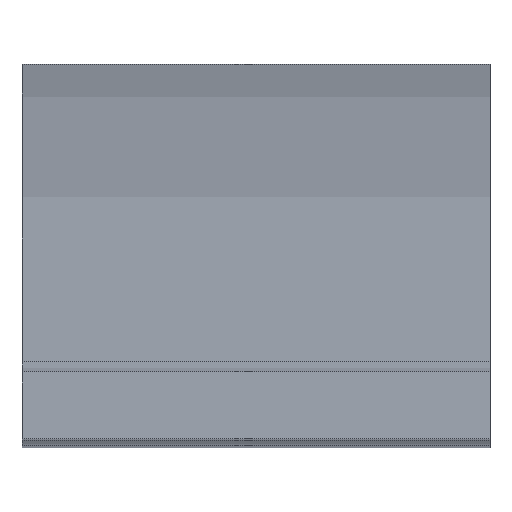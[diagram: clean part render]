
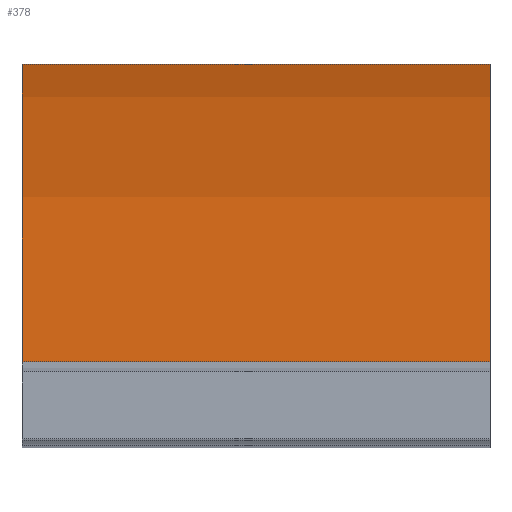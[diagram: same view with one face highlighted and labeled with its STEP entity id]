
A CAD part, top view. The second image highlights one B-rep face of the part: STEP entity #378.
In plain terms, the highlighted cylindrical face has radius 9.506 mm (diameter 19.012 mm), a partial arc.
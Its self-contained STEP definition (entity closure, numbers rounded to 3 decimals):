
#15=CARTESIAN_POINT('',(-0.533,-8.642,-5.969));
#16=DIRECTION('',(1.,0.,0.));
#17=DIRECTION('',(0.,0.928,-0.373));
#18=AXIS2_PLACEMENT_3D('',#15,#16,#17);
#88=DIRECTION('',(1.,0.,0.));
#89=VECTOR('',#88,1.067);
#90=CARTESIAN_POINT('',(-0.533,0.179,-2.428));
#91=LINE('',#90,#89);
#92=DIRECTION('',(1.,0.,0.));
#93=VECTOR('',#92,1.067);
#94=CARTESIAN_POINT('',(-0.533,0.179,-9.51));
#95=LINE('',#94,#93);
#144=CARTESIAN_POINT('',(0.533,-8.642,-5.969));
#145=DIRECTION('',(1.,0.,0.));
#146=DIRECTION('',(0.,0.928,-0.373));
#147=AXIS2_PLACEMENT_3D('',#144,#145,#146);
#164=CARTESIAN_POINT('',(-0.533,0.179,-9.51));
#165=CARTESIAN_POINT('',(-0.533,0.179,-2.428));
#166=VERTEX_POINT('',#164);
#167=VERTEX_POINT('',#165);
#188=CARTESIAN_POINT('',(0.533,0.179,-9.51));
#189=CARTESIAN_POINT('',(0.533,0.179,-2.428));
#190=VERTEX_POINT('',#188);
#191=VERTEX_POINT('',#189);
#365=CARTESIAN_POINT('',(-0.533,-8.642,-5.969));
#366=DIRECTION('',(1.,0.,0.));
#367=DIRECTION('',(0.,-1.,0.));
#368=AXIS2_PLACEMENT_3D('',#365,#366,#367);
#369=CYLINDRICAL_SURFACE('',#368,9.506);
#370=ORIENTED_EDGE('',*,*,#217,.F.);
#372=ORIENTED_EDGE('',*,*,#371,.T.);
#374=ORIENTED_EDGE('',*,*,#373,.T.);
#375=ORIENTED_EDGE('',*,*,#357,.F.);
#376=EDGE_LOOP('',(#370,#372,#374,#375));
#377=FACE_OUTER_BOUND('',#376,.F.);
#19=CIRCLE('',#18,9.506);
#148=CIRCLE('',#147,9.506);
#217=EDGE_CURVE('',#166,#167,#19,.T.);
#357=EDGE_CURVE('',#167,#191,#91,.T.);
#371=EDGE_CURVE('',#166,#190,#95,.T.);
#373=EDGE_CURVE('',#190,#191,#148,.T.);
#378=ADVANCED_FACE('',(#377),#369,.T.);
